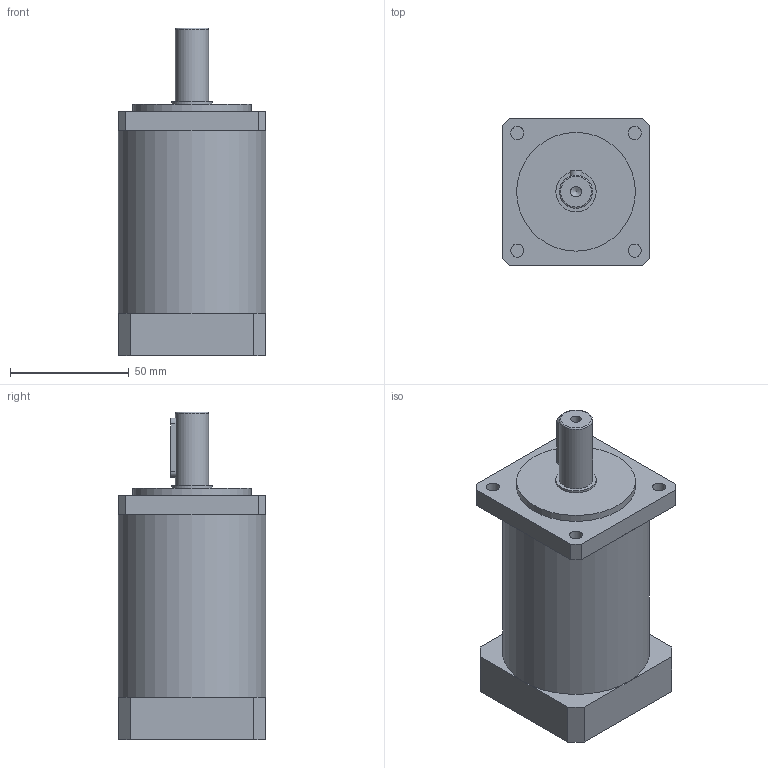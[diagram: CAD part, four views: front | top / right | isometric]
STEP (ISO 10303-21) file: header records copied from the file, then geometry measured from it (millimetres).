
FILE_DESCRIPTION(/* description */ (''),/* implementation_level */ '2;1');
FILE_NAME(/* name */ '62 2ji jiansu ji 8MM L 103mm.stp',/* time_stamp */ '2018-08-30T13:35:59+08:00',/* author */ (''),/* organization */ (''),/* preprocessor_version */ 'ST-DEVELOPER v11',/* originating_system */ 'SIEMENS UGS NX 6.0',/* authorisation */ '');
FILE_SCHEMA (('CONFIG_CONTROL_DESIGN'));
Length unit declared in the file: millimetre
Products named in the file (1): 62 2ji jiansu ji 8MM L 103mm
Bounding box: 62 x 62 x 138 mm (x, y, z)
Volume: 334346.9 mm3; surface area: 35354.4 mm2
Topology: 2 solids, 2 shells, 60 faces, 141 edges, 91 vertices
Faces by surface type: plane 36, cylinder 18, cone 5, torus 1
Full cylindrical faces by diameter (mm): 3.5 x4, 4.5 x1, 5.5 x4, 8 x2, 14 x1, 17 x1, 36 x1, 50 x1, 62 x1
Entity records: 1618 total; most frequent: DIRECTION 272, CARTESIAN_POINT 252, ORIENTED_EDGE 214, EDGE_CURVE 107, AXIS2_PLACEMENT_3D 104, EDGE_LOOP 96, VERTEX_POINT 84, FACE_BOUND 74
